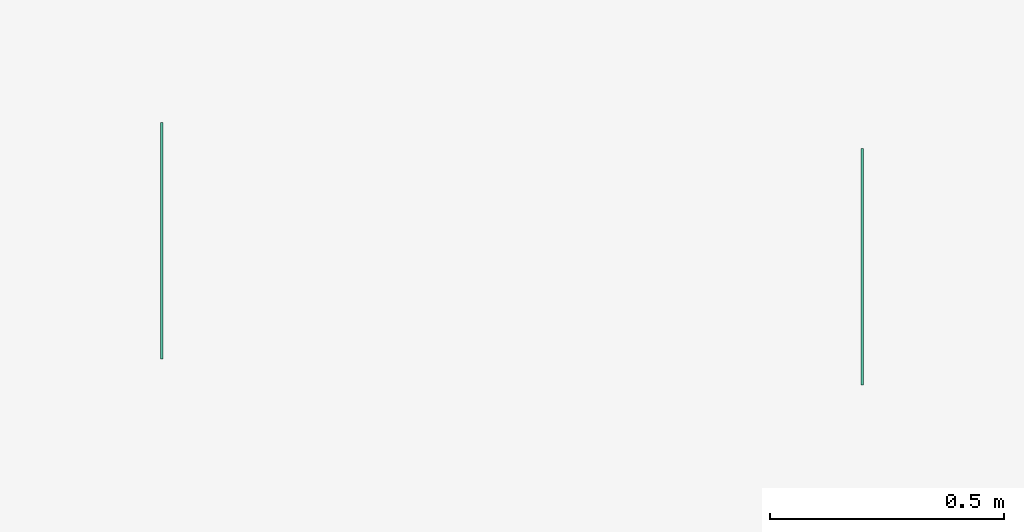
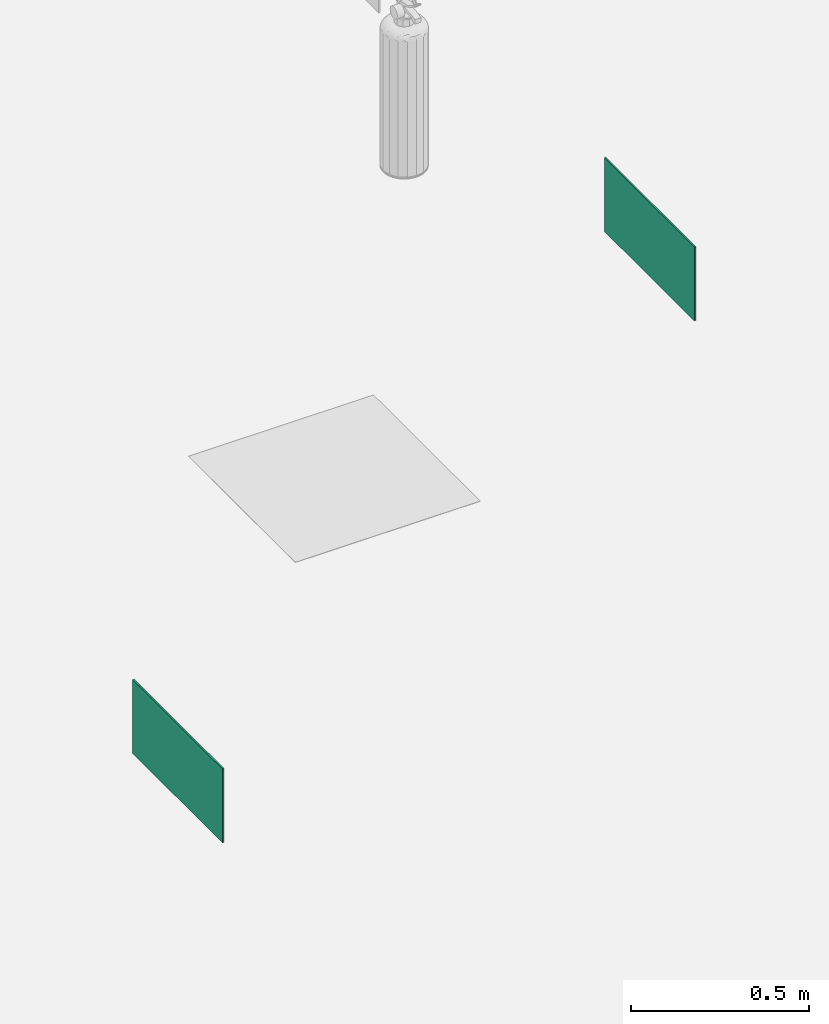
# One storey, part 2 of 6: 2 flow terminals.
"""IFC2X3 building model written with IfcOpenShell, lengths in metres."""

from ifc_helpers import new_model, entity, si_unit, converted_unit, derived_unit, direction, frame, frame_2d, origin, place, context, subcontext, project, spatial, polyline, circle_curve, parameter, trimmed, segment, composite_curve, circle, outline, extrude, source, transform, mapped, material, material_list, type_object, type_shapes, element, save


model = new_model("IFC2X3")

# Units and contexts
model_context = context("Model", 3, precision=1e-05, world=origin(), true_north=direction((6.12303176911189e-17, 1.0)))
body_context = subcontext(model_context, "Body", "Model", "MODEL_VIEW")
ifc_project = project(units=[si_unit("LENGTHUNIT", "METRE"), si_unit("AREAUNIT", "SQUARE_METRE"), si_unit("VOLUMEUNIT", "CUBIC_METRE"), converted_unit("PLANEANGLEUNIT", "DEGREE", entity("IfcRatioMeasure", 0.0174532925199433), si_unit("PLANEANGLEUNIT", "RADIAN"), dimensions=[0, 0, 0, 0, 0, 0, 0]), si_unit("MASSUNIT", "GRAM", prefix="KILO"), derived_unit("MASSDENSITYUNIT", [(si_unit("MASSUNIT", "GRAM", prefix="KILO"), 1), (si_unit("LENGTHUNIT", "METRE"), -3)]), derived_unit("MOMENTOFINERTIAUNIT", [(si_unit("LENGTHUNIT", "METRE"), 4)]), si_unit("TIMEUNIT", "SECOND"), si_unit("FREQUENCYUNIT", "HERTZ"), si_unit("THERMODYNAMICTEMPERATUREUNIT", "DEGREE_CELSIUS"), derived_unit("THERMALTRANSMITTANCEUNIT", [(si_unit("MASSUNIT", "GRAM", prefix="KILO"), 1), (si_unit("THERMODYNAMICTEMPERATUREUNIT", "KELVIN"), -1), (si_unit("TIMEUNIT", "SECOND"), -3)]), derived_unit("VOLUMETRICFLOWRATEUNIT", [(si_unit("LENGTHUNIT", "METRE"), 3), (si_unit("TIMEUNIT", "SECOND"), -1)]), si_unit("ELECTRICCURRENTUNIT", "AMPERE"), si_unit("ELECTRICVOLTAGEUNIT", "VOLT"), si_unit("POWERUNIT", "WATT"), si_unit("FORCEUNIT", "NEWTON", prefix="KILO"), si_unit("ILLUMINANCEUNIT", "LUX"), si_unit("LUMINOUSFLUXUNIT", "LUMEN"), si_unit("LUMINOUSINTENSITYUNIT", "CANDELA"), derived_unit("USERDEFINED", [(si_unit("MASSUNIT", "GRAM", prefix="KILO"), -1), (si_unit("LENGTHUNIT", "METRE"), -2), (si_unit("TIMEUNIT", "SECOND"), 3), (si_unit("LUMINOUSFLUXUNIT", "LUMEN"), 1)]), derived_unit("LINEARVELOCITYUNIT", [(si_unit("LENGTHUNIT", "METRE"), 1), (si_unit("TIMEUNIT", "SECOND"), -1)]), si_unit("PRESSUREUNIT", "PASCAL"), derived_unit("USERDEFINED", [(si_unit("LENGTHUNIT", "METRE"), -2), (si_unit("MASSUNIT", "GRAM", prefix="KILO"), 1), (si_unit("TIMEUNIT", "SECOND"), -2)]), derived_unit("LINEARFORCEUNIT", [(si_unit("MASSUNIT", "GRAM", prefix="KILO"), 1), (si_unit("LENGTHUNIT", "METRE"), 1), (si_unit("TIMEUNIT", "SECOND"), -2), (si_unit("LENGTHUNIT", "METRE"), -1)]), derived_unit("PLANARFORCEUNIT", [(si_unit("MASSUNIT", "GRAM", prefix="KILO"), 1), (si_unit("LENGTHUNIT", "METRE"), 1), (si_unit("TIMEUNIT", "SECOND"), -2), (si_unit("LENGTHUNIT", "METRE"), -2)])], contexts=[model_context])

# Site, building, storey
site_placement = place(None, origin())
site = spatial("IfcSite", under=ifc_project, at=site_placement, Name="Default", CompositionType="ELEMENT")
building_placement = place(site_placement, origin())
building = spatial("IfcBuilding", under=site, at=building_placement, Name="C.L. MONSENHOR ANTÔNIO SAMPAIO", CompositionType="ELEMENT")
storey_placement = place(building_placement, frame((0.0, 0.0, 3.42)))
storey = spatial("IfcBuildingStorey", under=building, at=storey_placement, Name="Planta Baixa - Incêndio - Pav. Sup.", CompositionType="ELEMENT", Elevation=3.42)

# Flow terminals
ifc_material_1 = material(Name="Branco")
ifc_material_2 = material(Name="VERDE")
ifc_material_list_1 = material_list([ifc_material_1, ifc_material_2])
distribution_element_type_1 = type_object("IfcDistributionElementType", Name="S1:10 metros", material=ifc_material_1)
shared_shape_1 = source(origin(), body_context, "Body", "SweptSolid", [
    extrude(outline(polyline([(-0.0610696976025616, -0.12748118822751), (0.0766837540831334, -0.12748118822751), (0.0766837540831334, -0.0524811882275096), (0.0586375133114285, -0.0524811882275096), (0.0425748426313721, -0.0754210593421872), (0.024448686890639, -0.0838734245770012), (-0.030551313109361, -0.0838734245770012), (-0.0557149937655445, -0.0465667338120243), (-0.0451083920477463, -0.0359601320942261), (-0.0255366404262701, -0.0649764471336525), (-0.00553664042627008, -0.0649764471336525), (-0.022441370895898, -0.0287241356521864), (-0.0261438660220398, 0.0135955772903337), (-0.0637906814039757, 0.0155685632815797), (-0.0825671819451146, 0.0343450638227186), (-0.0176067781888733, 0.0366135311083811), (-0.00700017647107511, 0.0260069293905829), (-0.00282498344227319, -0.00370111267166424), (0.0027606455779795, -0.00109649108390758), (0.036959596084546, 0.0690217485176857), (0.0633954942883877, 0.0690217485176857), (0.0195583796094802, -0.0208576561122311), (0.0195583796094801, -0.0294894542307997), (0.0348026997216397, -0.0512605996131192), (0.0552626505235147, -0.0293199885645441), (0.0766837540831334, -0.0293199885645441), (0.0766837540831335, 0.0706800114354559), (0.0625416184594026, 0.0848221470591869), (0.0462279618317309, 0.0848221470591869), (0.0572287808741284, 0.0717118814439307), (0.0310842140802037, 0.0717118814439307), (0.0179739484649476, 0.0848221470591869), (-0.0744479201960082, 0.0848221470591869), (-0.0595850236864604, 0.0714395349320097), (-0.0595850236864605, 0.0393589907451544), (-0.0895850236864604, 0.0393589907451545), (-0.0895850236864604, 0.0340999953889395), (-0.0610696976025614, 0.00751881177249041), (-0.0610696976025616, -0.12748118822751)]), holes=[composite_curve([segment(trimmed(circle_curve(frame_2d((0.03240990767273, -0.103271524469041), x_axis=(1.0, 0.0)), 0.0177066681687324), [parameter(3.05333249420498e-13)], [parameter(180.0)], True, "PARAMETER"), False, "CONTINUOUS"), segment(trimmed(circle_curve(frame_2d((0.03240990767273, -0.103271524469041), x_axis=(1.0, 0.0)), 0.0177066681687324), [parameter(180.0)], [parameter(360.0)], True, "PARAMETER"), False, "CONTINUOUS")], self_intersect=False)]), frame((-0.135804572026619, -0.005, 0.100036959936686), z_axis=(0.0, 1.0, 0.0), x_axis=(1.0, 0.0, 0.0)), (0.0, 0.0, 1.0), 0.005),
    extrude(outline(polyline([(-0.0893393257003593, 0.0156689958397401), (-0.0893393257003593, -0.0156689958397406), (0.0256606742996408, -0.0156689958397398), (-0.0132301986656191, -0.0545598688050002), (0.0317698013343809, -0.0545598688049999), (0.0902780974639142, 0.0), (0.0317698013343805, 0.0545598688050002), (-0.0132301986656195, 0.0545598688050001), (0.0256606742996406, 0.0156689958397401), (-0.0893393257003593, 0.0156689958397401)])), frame((0.12865825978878, -0.005, 0.12724469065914), z_axis=(0.0, -1.0, 0.0), x_axis=(1.0, 0.0, 0.0)), (0.0, 0.0, -1.0), 0.005),
    extrude(outline(polyline([(-0.252999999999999, -0.126499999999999), (0.253, -0.126499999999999), (0.253, 0.126499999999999), (-0.253, 0.126499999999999), (-0.252999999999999, -0.126499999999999)]), holes=[polyline([(-0.154318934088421, 0.0164136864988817), (-0.0393189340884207, 0.0164136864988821), (-0.0393189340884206, -0.0149243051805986), (-0.154318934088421, -0.0149243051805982), (-0.115428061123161, -0.0538151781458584), (-0.160428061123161, -0.0538151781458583), (-0.218936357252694, 0.000744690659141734), (-0.160428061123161, 0.0553045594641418), (-0.115428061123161, 0.0553045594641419), (-0.154318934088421, 0.0164136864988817)]), polyline([(0.19687426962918, 0.101018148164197), (0.19687426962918, -0.0339818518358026), (0.225389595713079, -0.0605630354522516), (0.225389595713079, -0.0658220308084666), (0.195389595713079, -0.0658220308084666), (0.195389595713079, -0.0979025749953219), (0.210252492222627, -0.111285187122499), (0.117830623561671, -0.111285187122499), (0.104720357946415, -0.0981749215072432), (0.0785757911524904, -0.0981749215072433), (0.0895766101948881, -0.111285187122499), (0.0732629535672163, -0.111285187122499), (0.0591208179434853, -0.0971430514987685), (0.0591208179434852, 0.00285694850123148), (0.0805419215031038, 0.00285694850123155), (0.101001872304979, 0.0247975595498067), (0.116246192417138, 0.00302641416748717), (0.116246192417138, -0.00560538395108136), (0.0724090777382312, -0.0954847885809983), (0.098844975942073, -0.0954847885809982), (0.133043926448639, -0.0253665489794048), (0.138629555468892, -0.0227619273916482), (0.142804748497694, -0.0524699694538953), (0.153411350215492, -0.0630765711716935), (0.218371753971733, -0.0608081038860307), (0.199595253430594, -0.0420316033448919), (0.161948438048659, -0.040058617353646), (0.158245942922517, 0.00226109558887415), (0.141341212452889, 0.0385134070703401), (0.161341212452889, 0.0385134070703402), (0.180912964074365, 0.00949709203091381), (0.191519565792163, 0.0201036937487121), (0.166355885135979, 0.0574103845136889), (0.111355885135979, 0.0574103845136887), (0.0932297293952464, 0.0489580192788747), (0.07716705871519, 0.026018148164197), (0.0591208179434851, 0.026018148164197), (0.0591208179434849, 0.101018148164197), (0.19687426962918, 0.101018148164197)])]), frame((0.0, -0.005, 0.126499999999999), z_axis=(0.0, 1.0, 0.0), x_axis=(-1.0, 0.0, 0.0)), (0.0, 0.0, 1.0), 0.005),
    extrude(circle(Radius=0.0177066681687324, at=frame_2d((0.0, -1.01518793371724e-16), x_axis=(1.0, 0.0))), frame((-0.103394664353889, -0.005, 0.203308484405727), z_axis=(0.0, 1.0, 0.0), x_axis=(1.0, 0.0, 0.0)), (0.0, 0.0, 1.0), 0.005),
])
type_shapes(distribution_element_type_1, [shared_shape_1])
flow_terminal_1_placement = place(storey_placement, frame((27.2476614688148, 21.4262994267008, 1.3), z_axis=(0.0, 0.0, 1.0), x_axis=(0.0, 1.0, 0.0)))
element("IfcFlowTerminal", 1, at=flow_terminal_1_placement, inside=storey, type_object=distribution_element_type_1, material=ifc_material_list_1, Name="S1:10 metros", ObjectType="S1:10 metros", context=body_context, shape_type="MappedRepresentation", body=[
    mapped(shared_shape_1, transform((0.0, 0.0, 0.0), scale=1.0)),
])
ifc_material_list_2 = material_list([ifc_material_1, ifc_material_2])
distribution_element_type_2 = type_object("IfcDistributionElementType", Name="S2:10 metros", material=ifc_material_1)
shared_shape_2 = source(origin(), body_context, "Body", "SweptSolid", [
    extrude(outline(polyline([(-0.12748118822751, 0.0610696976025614), (-0.12748118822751, -0.0766837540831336), (-0.0524811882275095, -0.0766837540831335), (-0.0524811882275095, -0.0586375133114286), (-0.0754210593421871, -0.0425748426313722), (-0.0838734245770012, -0.0244486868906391), (-0.0838734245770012, 0.0305513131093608), (-0.0465667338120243, 0.0557149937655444), (-0.0359601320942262, 0.0451083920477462), (-0.0649764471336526, 0.02553664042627), (-0.0649764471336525, 0.00553664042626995), (-0.0287241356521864, 0.022441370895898), (0.0135955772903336, 0.0261438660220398), (0.0155685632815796, 0.0637906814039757), (0.0343450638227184, 0.0825671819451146), (0.0366135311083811, 0.0176067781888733), (0.0260069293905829, 0.00700017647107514), (-0.00370111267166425, 0.00282498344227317), (-0.00109649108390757, -0.00276064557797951), (0.0690217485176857, -0.0369595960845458), (0.0690217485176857, -0.0633954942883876), (-0.0208576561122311, -0.0195583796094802), (-0.0294894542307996, -0.0195583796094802), (-0.0512605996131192, -0.0348026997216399), (-0.029319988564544, -0.0552626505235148), (-0.029319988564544, -0.0766837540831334), (0.070680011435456, -0.0766837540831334), (0.084822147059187, -0.0625416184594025), (0.0848221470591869, -0.0462279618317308), (0.0717118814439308, -0.0572287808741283), (0.0717118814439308, -0.0310842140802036), (0.0848221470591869, -0.0179739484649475), (0.0848221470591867, 0.0744479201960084), (0.0714395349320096, 0.0595850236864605), (0.0393589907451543, 0.0595850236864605), (0.0393589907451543, 0.0895850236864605), (0.0340999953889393, 0.0895850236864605), (0.00751881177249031, 0.0610696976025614), (-0.12748118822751, 0.0610696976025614)]), holes=[composite_curve([segment(trimmed(circle_curve(frame_2d((-0.103271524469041, -0.0324099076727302), x_axis=(0.0, -1.0)), 0.0177066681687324), [parameter(6.61555373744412e-13)], [parameter(180.0)], True, "PARAMETER"), False, "CONTINUOUS"), segment(trimmed(circle_curve(frame_2d((-0.103271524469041, -0.0324099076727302), x_axis=(0.0, -1.0)), 0.0177066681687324), [parameter(180.0)], [parameter(0.0)], True, "PARAMETER"), False, "CONTINUOUS")], self_intersect=False)]), frame((0.135804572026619, -0.005, 0.100036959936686), z_axis=(0.0, -1.0, 0.0), x_axis=(0.0, 0.0, -1.0)), (0.0, 0.0, -1.0), 0.005),
    extrude(outline(polyline([(-0.0156689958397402, -0.0893393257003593), (0.0156689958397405, -0.0893393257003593), (0.0156689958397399, 0.0256606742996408), (0.0545598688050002, -0.0132301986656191), (0.0545598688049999, 0.0317698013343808), (0.0, 0.0902780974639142), (-0.0545598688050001, 0.0317698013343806), (-0.0545598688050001, -0.0132301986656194), (-0.01566899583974, 0.0256606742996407), (-0.0156689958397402, -0.0893393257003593)])), frame((-0.12865825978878, -0.005, 0.12724469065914), z_axis=(0.0, 1.0, 0.0), x_axis=(0.0, 0.0, -1.0)), (0.0, 0.0, 1.0), 0.005),
    extrude(outline(polyline([(-0.126499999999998, -0.253), (0.1265, -0.253), (0.126499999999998, 0.253), (-0.1265, 0.252999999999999), (-0.126499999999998, -0.253)]), holes=[polyline([(0.0164136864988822, -0.154318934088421), (0.0553045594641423, -0.11542806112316), (0.0553045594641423, -0.16042806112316), (0.000744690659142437, -0.218936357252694), (-0.0538151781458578, -0.160428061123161), (-0.0538151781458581, -0.115428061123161), (-0.0149243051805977, -0.154318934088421), (-0.0149243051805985, -0.0393189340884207), (0.0164136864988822, -0.0393189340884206), (0.0164136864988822, -0.154318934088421)]), polyline([(0.101018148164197, 0.19687426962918), (0.101018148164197, 0.0591208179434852), (0.0260181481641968, 0.0591208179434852), (0.0260181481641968, 0.0771670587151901), (0.0489580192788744, 0.0932297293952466), (0.0574103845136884, 0.11135588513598), (0.0574103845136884, 0.16635588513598), (0.0201036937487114, 0.191519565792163), (0.00949709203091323, 0.180912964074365), (0.0385134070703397, 0.161341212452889), (0.0385134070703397, 0.141341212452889), (0.00226109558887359, 0.158245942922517), (-0.0400586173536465, 0.161948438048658), (-0.0420316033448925, 0.199595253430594), (-0.0608081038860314, 0.218371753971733), (-0.063076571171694, 0.153411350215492), (-0.0524699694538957, 0.142804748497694), (-0.0227619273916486, 0.138629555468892), (-0.0253665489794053, 0.133043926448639), (-0.0954847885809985, 0.0988449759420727), (-0.0954847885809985, 0.0724090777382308), (-0.00560538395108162, 0.116246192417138), (0.0030264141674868, 0.116246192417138), (0.0247975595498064, 0.101001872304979), (0.00285694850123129, 0.0805419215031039), (0.00285694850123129, 0.0591208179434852), (-0.0971430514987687, 0.059120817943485), (-0.1112851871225, 0.0732629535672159), (-0.1112851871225, 0.0895766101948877), (-0.0981749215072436, 0.0785757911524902), (-0.0981749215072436, 0.104720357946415), (-0.1112851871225, 0.117830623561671), (-0.1112851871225, 0.210252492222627), (-0.0979025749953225, 0.195389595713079), (-0.0658220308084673, 0.195389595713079), (-0.0658220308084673, 0.225389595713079), (-0.0605630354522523, 0.225389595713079), (-0.0339818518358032, 0.19687426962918), (0.101018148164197, 0.19687426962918)])]), frame((0.0, -0.005, 0.126499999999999), z_axis=(0.0, 1.0, 0.0), x_axis=(0.0, 0.0, 1.0)), (0.0, 0.0, 1.0), 0.005),
    extrude(circle(Radius=0.0177066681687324, at=frame_2d((0.0, -1.01518793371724e-16), x_axis=(1.0, 0.0))), frame((0.103394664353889, -0.005, 0.203308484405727), z_axis=(0.0, 1.0, 0.0), x_axis=(-1.0, 0.0, 0.0)), (0.0, 0.0, 1.0), 0.005),
])
type_shapes(distribution_element_type_2, [shared_shape_2])
flow_terminal_2_placement = place(storey_placement, frame((25.7491614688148, 21.4817950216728, 0.0), z_axis=(0.0, 0.0, 1.0), x_axis=(0.0, 1.0, 0.0)))
element("IfcFlowTerminal", 2, at=flow_terminal_2_placement, inside=storey, type_object=distribution_element_type_2, material=ifc_material_list_2, Name="S2:10 metros", ObjectType="S2:10 metros", context=body_context, shape_type="MappedRepresentation", body=[
    mapped(shared_shape_2, transform((0.0, 0.0, 0.0), scale=1.0)),
])

save(model, "model.ifc")
